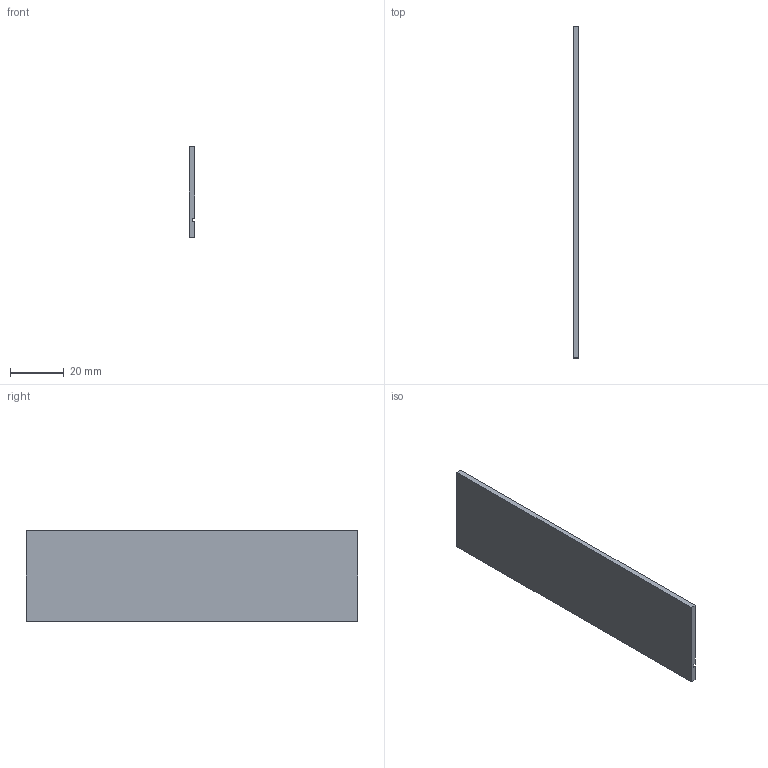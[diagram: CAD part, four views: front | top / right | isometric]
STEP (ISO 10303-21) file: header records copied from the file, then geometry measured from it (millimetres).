
FILE_DESCRIPTION(('Open CASCADE Model'),'2;1');
FILE_NAME('Open CASCADE Shape Model','2026-11-19T06:39:19',('Author'),( 'Open CASCADE'),'Open CASCADE STEP processor 8.0','Open CASCADE 8.0' ,'Unknown');
FILE_SCHEMA(('AUTOMOTIVE_DESIGN { 1 0 10303 214 1 1 1 1 }'));
Length unit declared in the file: millimetre
Products named in the file (1): Open CASCADE STEP translator 8.0 12
Bounding box: 2 x 124 x 34 mm (x, y, z)
Volume: 8313 mm3; surface area: 9260.5 mm2
Topology: 1 solids, 1 shells, 10 faces, 24 edges, 16 vertices
Faces by surface type: plane 10
Entity records: 594 total; most frequent: CARTESIAN_POINT 115, DIRECTION 78, LINE 56, VECTOR 56, ORIENTED_EDGE 48, PCURVE 48, DEFINITIONAL_REPRESENTATION 48, EDGE_CURVE 24
